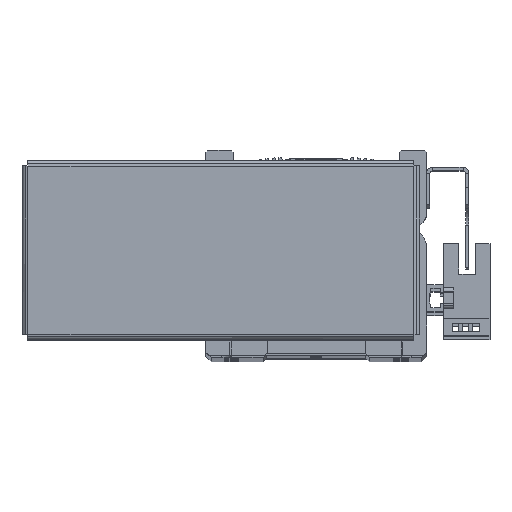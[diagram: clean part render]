
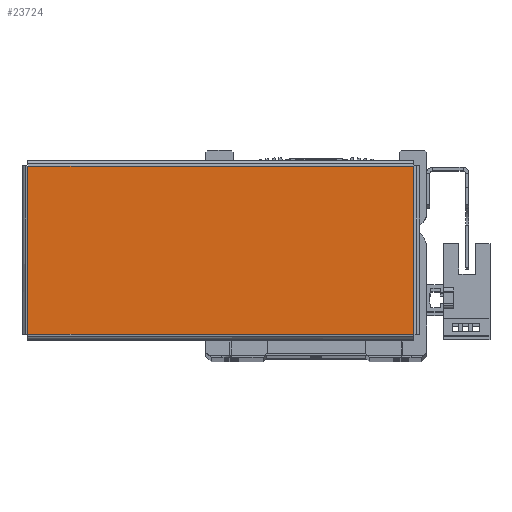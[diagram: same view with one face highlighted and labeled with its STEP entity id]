
A CAD part, top view. The second image highlights one B-rep face of the part: STEP entity #23724.
In plain terms, the highlighted planar face has unit normal (0, 0, 1) as drawn and (0, 0, -1) by its records, which use the part's own axes.
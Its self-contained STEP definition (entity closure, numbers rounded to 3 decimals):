
#815 = FACE_OUTER_BOUND ( 'NONE', #19606, .T. ) ;
#1771 = AXIS2_PLACEMENT_3D ( 'NONE', #10902, #10949, #10905 ) ;
#8374 = CARTESIAN_POINT ( 'NONE',  ( -56.863, -24.763, -1. ) ) ;
#8396 = CARTESIAN_POINT ( 'NONE',  ( 56.863, -24.763, -1. ) ) ;
#8402 = CARTESIAN_POINT ( 'NONE',  ( -56.863, 24.763, -1. ) ) ;
#10902 = CARTESIAN_POINT ( 'NONE',  ( 0., 0., -1. ) ) ;
#10905 = DIRECTION ( 'NONE',  ( 1., 0., 0. ) ) ;
#10910 = PLANE ( 'NONE',  #1771 ) ;
#10949 = DIRECTION ( 'NONE',  ( 0., 0., 1. ) ) ;
#17128 = LINE ( 'NONE', #18336, #17152 ) ;
#17132 = LINE ( 'NONE', #18307, #17138 ) ;
#17134 = LINE ( 'NONE', #18299, #17165 ) ;
#17135 = LINE ( 'NONE', #18314, #17157 ) ;
#17138 = VECTOR ( 'NONE', #18296, 1000. ) ;
#17152 = VECTOR ( 'NONE', #18316, 1000. ) ;
#17157 = VECTOR ( 'NONE', #18285, 1000. ) ;
#17165 = VECTOR ( 'NONE', #18280, 1000. ) ;
#18280 = DIRECTION ( 'NONE',  ( -1., 0., 0. ) ) ;
#18285 = DIRECTION ( 'NONE',  ( 0., 1., 0. ) ) ;
#18296 = DIRECTION ( 'NONE',  ( 0., -1., 0. ) ) ;
#18299 = CARTESIAN_POINT ( 'NONE',  ( 56.893, -24.763, -1. ) ) ;
#18307 = CARTESIAN_POINT ( 'NONE',  ( 56.863, 24.793, -1. ) ) ;
#18314 = CARTESIAN_POINT ( 'NONE',  ( -56.863, -24.793, -1. ) ) ;
#18316 = DIRECTION ( 'NONE',  ( 1., 0., 0. ) ) ;
#18336 = CARTESIAN_POINT ( 'NONE',  ( -56.893, 24.763, -1. ) ) ;
#18852 = VERTEX_POINT ( 'NONE', #28526 ) ;
#19606 = EDGE_LOOP ( 'NONE', ( #25152, #25206, #25238, #25264 ) ) ;
#23724 = ADVANCED_FACE ( 'NONE', ( #815 ), #10910, .F. ) ;
#25152 = ORIENTED_EDGE ( 'NONE', *, *, #42541, .T. ) ;
#25206 = ORIENTED_EDGE ( 'NONE', *, *, #42532, .T. ) ;
#25238 = ORIENTED_EDGE ( 'NONE', *, *, #42543, .T. ) ;
#25264 = ORIENTED_EDGE ( 'NONE', *, *, #42567, .T. ) ;
#28024 = VERTEX_POINT ( 'NONE', #8374 ) ;
#28030 = VERTEX_POINT ( 'NONE', #8402 ) ;
#28039 = VERTEX_POINT ( 'NONE', #8396 ) ;
#28526 = CARTESIAN_POINT ( 'NONE',  ( 56.863, 24.763, -1. ) ) ;
#42532 = EDGE_CURVE ( 'NONE', #28039, #28024, #17134, .T. ) ;
#42541 = EDGE_CURVE ( 'NONE', #18852, #28039, #17132, .T. ) ;
#42543 = EDGE_CURVE ( 'NONE', #28024, #28030, #17135, .T. ) ;
#42567 = EDGE_CURVE ( 'NONE', #28030, #18852, #17128, .T. ) ;
